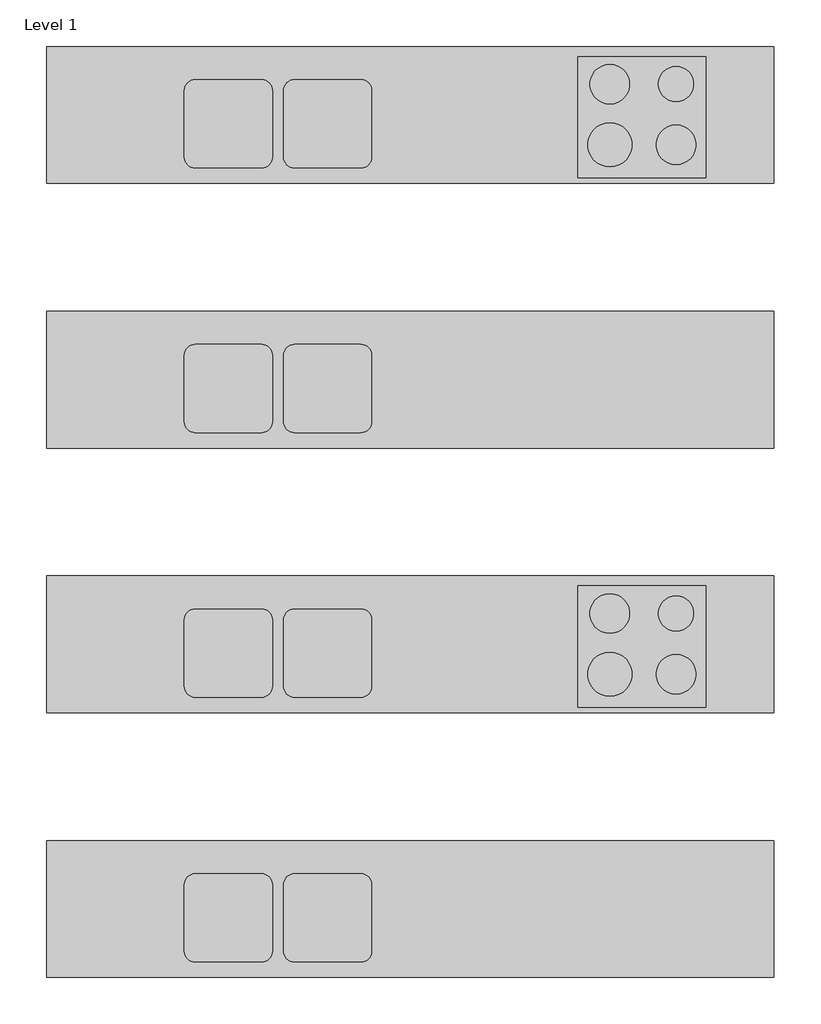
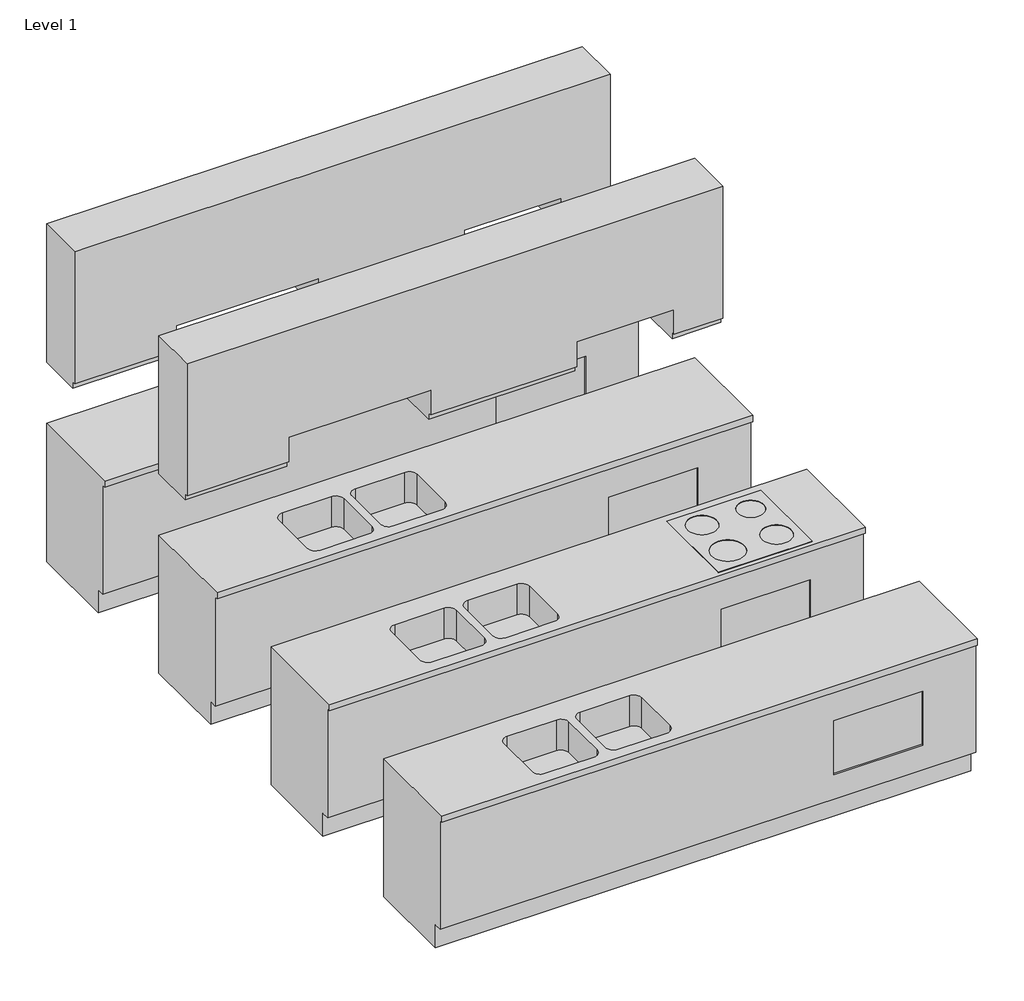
# One storey: 4 furniture elements.
"""IFC4 building model written with IfcOpenShell, lengths in millimetres."""

from ifc_helpers import new_model, si_unit, origin, place, context, project, spatial, transform, mapped, element, save
from components import furniture_c70681d7, furniture_b0f7cb87, furniture_85e4ec6a, furniture_5de0abab

model = new_model("IFC4")

# Units and contexts
model_context = context("Model", 3, world=origin())
ifc_project = project(units=[si_unit("LENGTHUNIT", "METRE", prefix="MILLI")], contexts=[model_context])

# Site, building, storey
site = spatial("IfcSite", under=ifc_project)
building = spatial("IfcBuilding", under=site)
storey = spatial("IfcBuildingStorey", under=building, Name="Level 1", Elevation=0.0)

# Furniture
placement = place(None, origin())
furniture_shape = furniture_c70681d7(model_context)
element("IfcFurniture", 1, ObjectType="NL_73_aanrechtblok : zonder koken", at=placement, inside=storey, context=model_context, shape_type="MappedRepresentation", body=[
    mapped(furniture_shape, transform((-923.2789791, 51.1551688, 0.0), x_axis=(1.0, 0.0, 0.0), y_axis=(0.0, 1.0, 0.0), z_axis=(0.0, 0.0, 1.0))),
])
furniture_2_shape = furniture_b0f7cb87(model_context)
element("IfcFurniture", 2, ObjectType="NL_73_aanrechtblok : met bovenkastjes", at=placement, inside=storey, context=model_context, shape_type="MappedRepresentation", body=[
    mapped(furniture_2_shape, transform((-923.2789791, 3651.1551688, 0.0), x_axis=(1.0, 0.0, 0.0), y_axis=(0.0, 1.0, 0.0), z_axis=(0.0, 0.0, 1.0))),
])
furniture_3_shape = furniture_85e4ec6a(model_context)
element("IfcFurniture", 3, ObjectType="NL_73_aanrechtblok : zonder bovenkastjes", at=placement, inside=storey, context=model_context, shape_type="MappedRepresentation", body=[
    mapped(furniture_3_shape, transform((-923.2789791, 1251.1551688, 0.0), x_axis=(1.0, 0.0, 0.0), y_axis=(0.0, 1.0, 0.0), z_axis=(0.0, 0.0, 1.0))),
])
furniture_4_shape = furniture_5de0abab(model_context)
element("IfcFurniture", 4, ObjectType="NL_73_aanrechtblok : met kastjes zonder koken", at=placement, inside=storey, context=model_context, shape_type="MappedRepresentation", body=[
    mapped(furniture_4_shape, transform((-923.2789791, 2451.1551688, 0.0), x_axis=(1.0, 0.0, 0.0), y_axis=(0.0, 1.0, 0.0), z_axis=(0.0, 0.0, 1.0))),
])

save(model, "model.ifc")
